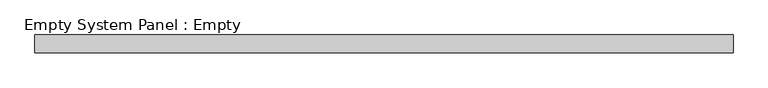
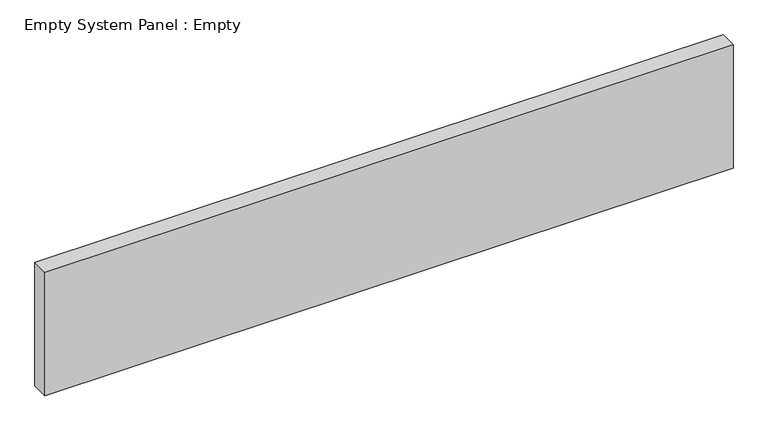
"""IFC4 building model written with IfcOpenShell, lengths in millimetres: plate geometry, Empty System Panel : Empty."""

from ifc_helpers import new_model, si_unit, origin, origin_with_axes, place, context, project, spatial, polyline, outline, extrude, source, transform, mapped, element, save


def empty_system_panel_empty_27e52b5e(model_context):
    return source(origin(), model_context, "Body", "SweptSolid", [
        extrude(outline(polyline([(1972.9, -50.0), (-1972.9, -50.0), (-1972.9, 50.0), (1972.9, 50.0), (1972.9, -50.0)])), origin_with_axes(), (0.0, 0.0, 1.0), 748.2),
    ])


if __name__ == "__main__":
    model = new_model("IFC4")
    model_context = context("Model", 3, world=origin())
    ifc_project = project(units=[si_unit("LENGTHUNIT", "METRE", prefix="MILLI")], contexts=[model_context])
    site = spatial("IfcSite", under=ifc_project)
    building = spatial("IfcBuilding", under=site)
    placement = place(None, origin())
    empty_system_panel_empty_shape = empty_system_panel_empty_27e52b5e(model_context)
    element("IfcPlate", 1, ObjectType="Empty System Panel : Empty", at=placement, inside=building, context=model_context, shape_type="MappedRepresentation", body=[
        mapped(empty_system_panel_empty_shape, transform((0.0, 0.0, 0.0), x_axis=(1.0, 0.0, 0.0), y_axis=(0.0, 1.0, 0.0), z_axis=(0.0, 0.0, 1.0))),
    ])
    save(model, "model.ifc")
